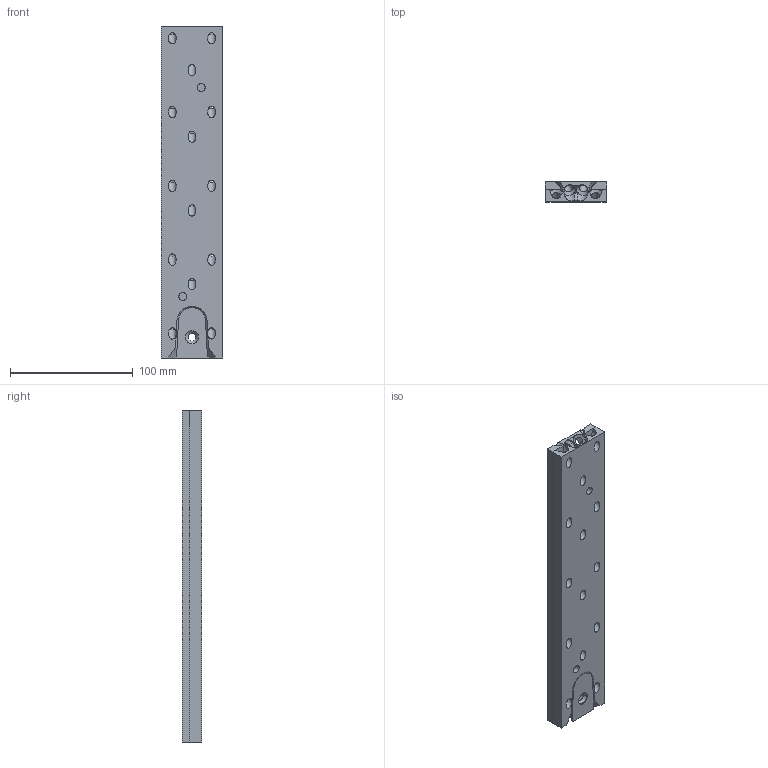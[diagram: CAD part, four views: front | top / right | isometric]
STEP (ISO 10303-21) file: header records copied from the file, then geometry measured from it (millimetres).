
FILE_DESCRIPTION(('STEP AP242'),'1');
FILE_NAME('OPO_86.880.33_volu_3d.stp','2026-04-30T13:30:36',(' '),(' '),'Spatial InterOp 3D',' ',' ');
FILE_SCHEMA(('AP242_MANAGED_MODEL_BASED_3D_ENGINEERING_MIM_LF {1 0 10303 442 1 1 4}'));
Length unit declared in the file: millimetre
Products named in the file (1): 1
Bounding box: 50 x 16 x 270 mm (x, y, z)
Volume: 194662.9 mm3; surface area: 69485.6 mm2
Topology: 2 solids, 2 shells, 342 faces, 841 edges, 504 vertices
Faces by surface type: cylinder 192, cone 82, plane 66, bspline 2
Entity records: 13090 total; most frequent: DIRECTION 1932, CARTESIAN_POINT 1814, ORIENTED_EDGE 1682, EDGE_CURVE 841, AXIS2_PLACEMENT_3D 758, VERTEX_POINT 504, EDGE_LOOP 421, LINE 416
